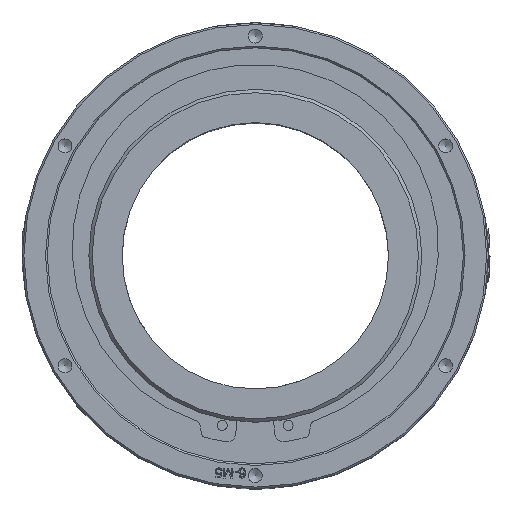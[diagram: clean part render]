
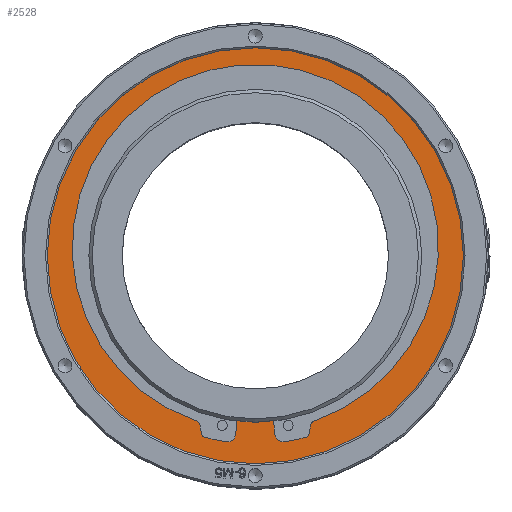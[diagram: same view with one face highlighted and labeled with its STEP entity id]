
A CAD part, top view. The second image highlights one B-rep face of the part: STEP entity #2528.
In plain terms, the highlighted planar face has unit normal (0, 0, 1).
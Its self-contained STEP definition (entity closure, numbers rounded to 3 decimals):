
#216=FACE_BOUND('',#6106,.T.);
#217=FACE_BOUND('',#6107,.T.);
#1629=CIRCLE('',#29582,62.5);
#1630=CIRCLE('',#29583,2.5);
#1631=CIRCLE('',#29584,48.25);
#1632=CIRCLE('',#29585,2.5);
#1633=CIRCLE('',#29586,2.5);
#1634=CIRCLE('',#29587,59.);
#1635=CIRCLE('',#29588,1.5);
#1636=CIRCLE('',#29589,1.5);
#1637=CIRCLE('',#29590,55.);
#1638=CIRCLE('',#29591,1.5);
#1639=CIRCLE('',#29592,1.5);
#1640=CIRCLE('',#29593,59.);
#1641=CIRCLE('',#29594,2.5);
#2528=ADVANCED_FACE('',(#216,#217),#3632,.T.);
#3632=PLANE('',#29595);
#6106=EDGE_LOOP('',(#12244));
#6107=EDGE_LOOP('',(#12245,#12246,#12247,#12248,#12249,#12250,#12251,#12252,
#12253,#12254,#12255,#12256,#12257,#12258,#12259,#12260));
#7333=LINE('',#49693,#8360);
#7334=LINE('',#49702,#8361);
#7335=LINE('',#49710,#8362);
#7336=LINE('',#49718,#8363);
#8360=VECTOR('',#31707,1.);
#8361=VECTOR('',#31714,1.);
#8362=VECTOR('',#31721,1.);
#8363=VECTOR('',#31728,1.);
#12244=ORIENTED_EDGE('',*,*,#22865,.F.);
#12245=ORIENTED_EDGE('',*,*,#22866,.T.);
#12246=ORIENTED_EDGE('',*,*,#22867,.T.);
#12247=ORIENTED_EDGE('',*,*,#22868,.F.);
#12248=ORIENTED_EDGE('',*,*,#22869,.T.);
#12249=ORIENTED_EDGE('',*,*,#22870,.T.);
#12250=ORIENTED_EDGE('',*,*,#22871,.T.);
#12251=ORIENTED_EDGE('',*,*,#22872,.F.);
#12252=ORIENTED_EDGE('',*,*,#22873,.T.);
#12253=ORIENTED_EDGE('',*,*,#22874,.F.);
#12254=ORIENTED_EDGE('',*,*,#22875,.T.);
#12255=ORIENTED_EDGE('',*,*,#22876,.F.);
#12256=ORIENTED_EDGE('',*,*,#22877,.T.);
#12257=ORIENTED_EDGE('',*,*,#22878,.T.);
#12258=ORIENTED_EDGE('',*,*,#22879,.T.);
#12259=ORIENTED_EDGE('',*,*,#22880,.F.);
#12260=ORIENTED_EDGE('',*,*,#22881,.T.);
#19200=VERTEX_POINT('',#49692);
#19201=VERTEX_POINT('',#49694);
#19202=VERTEX_POINT('',#49695);
#19203=VERTEX_POINT('',#49697);
#19204=VERTEX_POINT('',#49699);
#19205=VERTEX_POINT('',#49701);
#19206=VERTEX_POINT('',#49703);
#19207=VERTEX_POINT('',#49705);
#19208=VERTEX_POINT('',#49707);
#19209=VERTEX_POINT('',#49709);
#19210=VERTEX_POINT('',#49711);
#19211=VERTEX_POINT('',#49713);
#19212=VERTEX_POINT('',#49715);
#19213=VERTEX_POINT('',#49717);
#19214=VERTEX_POINT('',#49719);
#19215=VERTEX_POINT('',#49721);
#19216=VERTEX_POINT('',#49723);
#22865=EDGE_CURVE('',#19200,#19200,#1629,.T.);
#22866=EDGE_CURVE('',#19201,#19202,#7333,.T.);
#22867=EDGE_CURVE('',#19202,#19203,#1630,.T.);
#22868=EDGE_CURVE('',#19204,#19203,#1631,.T.);
#22869=EDGE_CURVE('',#19204,#19205,#1632,.T.);
#22870=EDGE_CURVE('',#19205,#19206,#7334,.T.);
#22871=EDGE_CURVE('',#19206,#19207,#1633,.T.);
#22872=EDGE_CURVE('',#19208,#19207,#1634,.T.);
#22873=EDGE_CURVE('',#19208,#19209,#1635,.T.);
#22874=EDGE_CURVE('',#19210,#19209,#7335,.T.);
#22875=EDGE_CURVE('',#19210,#19211,#1636,.T.);
#22876=EDGE_CURVE('',#19212,#19211,#1637,.T.);
#22877=EDGE_CURVE('',#19212,#19213,#1638,.T.);
#22878=EDGE_CURVE('',#19213,#19214,#7336,.T.);
#22879=EDGE_CURVE('',#19214,#19215,#1639,.T.);
#22880=EDGE_CURVE('',#19216,#19215,#1640,.T.);
#22881=EDGE_CURVE('',#19216,#19201,#1641,.T.);
#29582=AXIS2_PLACEMENT_3D('',#49691,#31705,#31706);
#29583=AXIS2_PLACEMENT_3D('',#49696,#31708,#31709);
#29584=AXIS2_PLACEMENT_3D('',#49698,#31710,#31711);
#29585=AXIS2_PLACEMENT_3D('',#49700,#31712,#31713);
#29586=AXIS2_PLACEMENT_3D('',#49704,#31715,#31716);
#29587=AXIS2_PLACEMENT_3D('',#49706,#31717,#31718);
#29588=AXIS2_PLACEMENT_3D('',#49708,#31719,#31720);
#29589=AXIS2_PLACEMENT_3D('',#49712,#31722,#31723);
#29590=AXIS2_PLACEMENT_3D('',#49714,#31724,#31725);
#29591=AXIS2_PLACEMENT_3D('',#49716,#31726,#31727);
#29592=AXIS2_PLACEMENT_3D('',#49720,#31729,#31730);
#29593=AXIS2_PLACEMENT_3D('',#49722,#31731,#31732);
#29594=AXIS2_PLACEMENT_3D('',#49724,#31733,#31734);
#29595=AXIS2_PLACEMENT_3D('',#49725,#31735,#31736);
#31705=DIRECTION('',(0.,0.,-1.));
#31706=DIRECTION('',(1.,0.,0.));
#31707=DIRECTION('',(-0.105,0.995,0.));
#31708=DIRECTION('',(0.,0.,-1.));
#31709=DIRECTION('',(1.,0.,0.));
#31710=DIRECTION('',(0.,0.,1.));
#31711=DIRECTION('',(1.,0.,0.));
#31712=DIRECTION('',(0.,0.,-1.));
#31713=DIRECTION('',(1.,0.,0.));
#31714=DIRECTION('',(-0.105,-0.995,0.));
#31715=DIRECTION('',(0.,0.,-1.));
#31716=DIRECTION('',(1.,0.,0.));
#31717=DIRECTION('',(0.,0.,1.));
#31718=DIRECTION('',(1.,0.,0.));
#31719=DIRECTION('',(0.,0.,-1.));
#31720=DIRECTION('',(1.,0.,0.));
#31721=DIRECTION('',(0.174,-0.985,0.));
#31722=DIRECTION('',(0.,0.,1.));
#31723=DIRECTION('',(1.,0.,0.));
#31724=DIRECTION('',(0.,0.,1.));
#31725=DIRECTION('',(1.,0.,0.));
#31726=DIRECTION('',(0.,0.,1.));
#31727=DIRECTION('',(1.,0.,0.));
#31728=DIRECTION('',(-0.174,-0.985,0.));
#31729=DIRECTION('',(0.,0.,-1.));
#31730=DIRECTION('',(1.,0.,0.));
#31731=DIRECTION('',(0.,0.,1.));
#31732=DIRECTION('',(1.,0.,0.));
#31733=DIRECTION('',(0.,0.,-1.));
#31734=DIRECTION('',(1.,0.,0.));
#31735=DIRECTION('',(0.,0.,1.));
#31736=DIRECTION('',(-1.,0.,0.));
#49691=CARTESIAN_POINT('',(0.,0.,89.));
#49692=CARTESIAN_POINT('',(62.5,0.,89.));
#49693=CARTESIAN_POINT('',(0.,2.5,89.));
#49694=CARTESIAN_POINT('',(5.9,-53.635,89.));
#49695=CARTESIAN_POINT('',(5.531,-50.121,89.));
#49696=CARTESIAN_POINT('',(8.017,-49.86,89.));
#49697=CARTESIAN_POINT('',(6.606,-47.796,89.));
#49698=CARTESIAN_POINT('',(0.,0.,89.));
#49699=CARTESIAN_POINT('',(-6.606,-47.796,89.));
#49700=CARTESIAN_POINT('',(-8.017,-49.86,89.));
#49701=CARTESIAN_POINT('',(-5.531,-50.121,89.));
#49702=CARTESIAN_POINT('',(0.,2.5,89.));
#49703=CARTESIAN_POINT('',(-5.9,-53.635,89.));
#49704=CARTESIAN_POINT('',(-8.386,-53.374,89.));
#49705=CARTESIAN_POINT('',(-8.757,-55.846,89.));
#49706=CARTESIAN_POINT('',(0.,2.5,89.));
#49707=CARTESIAN_POINT('',(-15.095,-54.536,89.));
#49708=CARTESIAN_POINT('',(-14.711,-53.086,89.));
#49709=CARTESIAN_POINT('',(-16.188,-53.347,89.));
#49710=CARTESIAN_POINT('',(-16.023,-54.283,89.));
#49711=CARTESIAN_POINT('',(-16.645,-50.754,89.));
#49712=CARTESIAN_POINT('',(-18.123,-51.015,89.));
#49713=CARTESIAN_POINT('',(-17.641,-49.594,89.));
#49714=CARTESIAN_POINT('',(0.,2.5,89.));
#49715=CARTESIAN_POINT('',(17.641,-49.594,89.));
#49716=CARTESIAN_POINT('',(18.123,-51.015,89.));
#49717=CARTESIAN_POINT('',(16.645,-50.754,89.));
#49718=CARTESIAN_POINT('',(25.25,-1.952,89.));
#49719=CARTESIAN_POINT('',(16.188,-53.347,89.));
#49720=CARTESIAN_POINT('',(14.711,-53.086,89.));
#49721=CARTESIAN_POINT('',(15.095,-54.536,89.));
#49722=CARTESIAN_POINT('',(0.,2.5,89.));
#49723=CARTESIAN_POINT('',(8.757,-55.846,89.));
#49724=CARTESIAN_POINT('',(8.386,-53.374,89.));
#49725=CARTESIAN_POINT('',(0.,2.5,89.));
